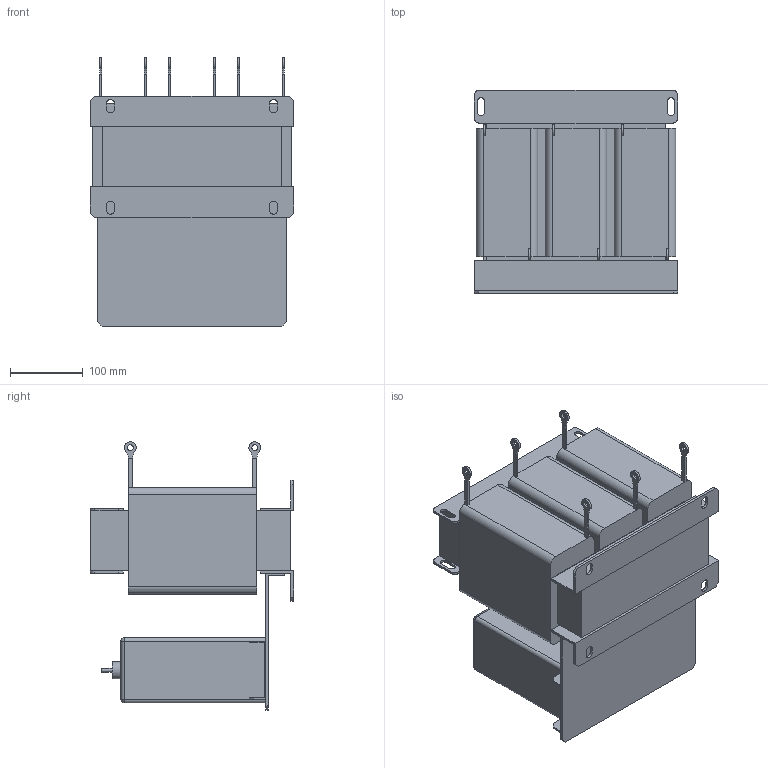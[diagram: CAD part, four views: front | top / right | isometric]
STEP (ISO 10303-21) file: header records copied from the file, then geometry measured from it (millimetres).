
FILE_DESCRIPTION(/* description */ (''),/* implementation_level */ '2;1');
FILE_NAME(/* name */ 'Sin-T6-060.stp',/* time_stamp */ '2025-03-05T16:27:03+04:00',/* author */ ('Лео'),/* organization */ (''),/* preprocessor_version */ 'ST-DEVELOPER v19.2',/* originating_system */ 'Autodesk Inventor 2024',/* authorisation */ '');
FILE_SCHEMA (('AUTOMOTIVE_DESIGN { 1 0 10303 214 3 1 1 }'));
Length unit declared in the file: millimetre
Products named in the file (1): Sin-T4-004
Bounding box: 280 x 280 x 370 mm (x, y, z)
Volume: 12765274.4 mm3; surface area: 904065.3 mm2
Topology: 25 solids, 25 shells, 258 faces, 606 edges, 398 vertices
Faces by surface type: plane 176, cylinder 78, sphere 4
Full cylindrical faces by diameter (mm): 5 x3, 8 x6, 24 x3
Entity records: 7445 total; most frequent: DIRECTION 1280, CARTESIAN_POINT 1263, ORIENTED_EDGE 1212, EDGE_CURVE 606, LINE 450, VECTOR 450, AXIS2_PLACEMENT_3D 415, VERTEX_POINT 398
